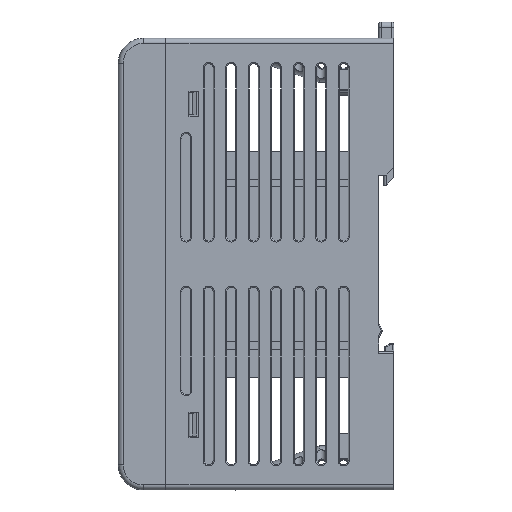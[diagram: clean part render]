
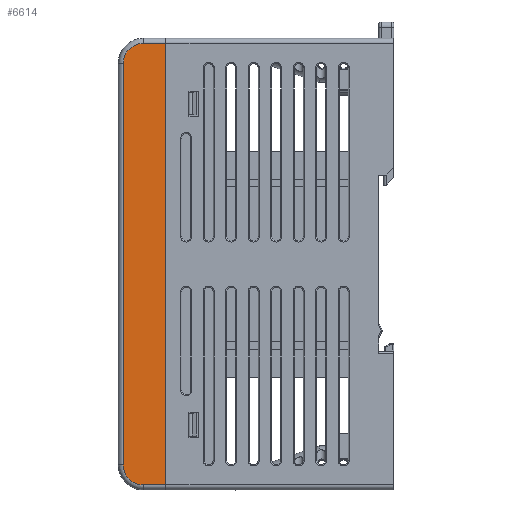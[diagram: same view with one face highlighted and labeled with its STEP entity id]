
A CAD part, left-side view. The second image highlights one B-rep face of the part: STEP entity #6614.
In plain terms, the highlighted planar face has unit normal (-1, 0, 0).
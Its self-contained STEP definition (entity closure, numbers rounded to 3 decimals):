
#2261=DIRECTION('',(0.,0.,1.));
#2262=VECTOR('',#2261,88.);
#2263=CARTESIAN_POINT('',(-12.5,0.,-44.));
#2264=LINE('',#2263,#2262);
#2527=DIRECTION('',(0.,-1.,0.));
#2528=VECTOR('',#2527,4.4);
#2529=CARTESIAN_POINT('',(-12.5,4.4,-44.));
#2530=LINE('',#2529,#2528);
#2534=CARTESIAN_POINT('',(-12.5,4.4,-40.));
#2535=DIRECTION('',(-1.,0.,0.));
#2536=DIRECTION('',(0.,1.,0.));
#2537=AXIS2_PLACEMENT_3D('',#2534,#2535,#2536);
#2542=DIRECTION('',(0.,0.,-1.));
#2543=VECTOR('',#2542,80.);
#2544=CARTESIAN_POINT('',(-12.5,8.4,40.));
#2545=LINE('',#2544,#2543);
#2549=CARTESIAN_POINT('',(-12.5,4.4,40.));
#2550=DIRECTION('',(-1.,0.,0.));
#2551=DIRECTION('',(0.,0.,1.));
#2552=AXIS2_PLACEMENT_3D('',#2549,#2550,#2551);
#2557=DIRECTION('',(0.,1.,0.));
#2558=VECTOR('',#2557,4.4);
#2559=CARTESIAN_POINT('',(-12.5,0.,44.));
#2560=LINE('',#2559,#2558);
#4388=CARTESIAN_POINT('',(-12.5,0.,-44.));
#4390=VERTEX_POINT('',#4388);
#4394=CARTESIAN_POINT('',(-12.5,4.4,-44.));
#4395=VERTEX_POINT('',#4394);
#4396=CARTESIAN_POINT('',(-12.5,8.4,-40.));
#4397=VERTEX_POINT('',#4396);
#4400=CARTESIAN_POINT('',(-12.5,8.4,40.));
#4401=VERTEX_POINT('',#4400);
#4404=CARTESIAN_POINT('',(-12.5,4.4,44.));
#4405=VERTEX_POINT('',#4404);
#4409=CARTESIAN_POINT('',(-12.5,0.,44.));
#4411=VERTEX_POINT('',#4409);
#6598=CARTESIAN_POINT('',(-12.5,0.,-45.));
#6599=DIRECTION('',(-1.,0.,0.));
#6600=DIRECTION('',(0.,0.,1.));
#6601=AXIS2_PLACEMENT_3D('',#6598,#6599,#6600);
#6602=PLANE('',#6601);
#6603=ORIENTED_EDGE('',*,*,#6498,.F.);
#6605=ORIENTED_EDGE('',*,*,#6604,.F.);
#6607=ORIENTED_EDGE('',*,*,#6606,.F.);
#6609=ORIENTED_EDGE('',*,*,#6608,.F.);
#6610=ORIENTED_EDGE('',*,*,#6590,.F.);
#6611=ORIENTED_EDGE('',*,*,#6428,.F.);
#6612=EDGE_LOOP('',(#6603,#6605,#6607,#6609,#6610,#6611));
#6613=FACE_OUTER_BOUND('',#6612,.F.);
#6614=ADVANCED_FACE('',(#6613),#6602,.T.);
#2538=CIRCLE('',#2537,4.);
#2553=CIRCLE('',#2552,4.);
#6428=EDGE_CURVE('',#4390,#4411,#2264,.T.);
#6498=EDGE_CURVE('',#4395,#4390,#2530,.T.);
#6590=EDGE_CURVE('',#4411,#4405,#2560,.T.);
#6604=EDGE_CURVE('',#4397,#4395,#2538,.T.);
#6606=EDGE_CURVE('',#4401,#4397,#2545,.T.);
#6608=EDGE_CURVE('',#4405,#4401,#2553,.T.);
